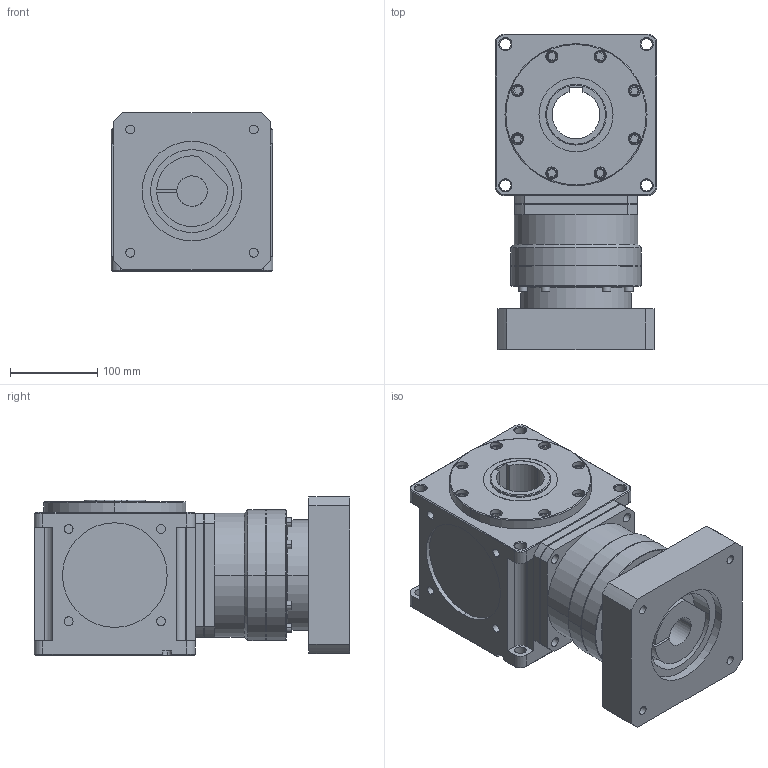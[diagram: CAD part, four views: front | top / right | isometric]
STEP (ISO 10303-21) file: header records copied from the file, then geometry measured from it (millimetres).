
FILE_DESCRIPTION (( 'STEP AP214' ), '1' );
FILE_NAME ('CCW185A-L1(6-20)-CR 35-114.3-200-M12.STEP', '2025-05-26T05:26:50', ( '微软用户' ), ( '微软中国' ), 'SwSTEP 2.0', 'SolidWorks 2024', '' );
FILE_SCHEMA (( 'AUTOMOTIVE_DESIGN' ));
Length unit declared in the file: millimetre
Products named in the file (3): CCW185A-L1(6-20)-CR 35-114.3-200-M12; CCW185A-002-CR箱体; VRB-142-L1-S2-P1 35-114.3-200-M12
Assembly tree (2 placements, depth 2):
  CCW185A-L1(6-20)-CR 35-114.3-200-M12
    VRB-142-L1-S2-P1 35-114.3-200-M12
    CCW185A-002-CR箱体
Bounding box: 185 x 362 x 182 mm (x, y, z)
Volume: 8535881.6 mm3; surface area: 471244.2 mm2
Topology: 2 solids, 2 shells, 524 faces, 1241 edges, 785 vertices
Faces by surface type: plane 262, cylinder 178, cone 56, torus 28
Entity records: 15368 total; most frequent: DIRECTION 2790, CARTESIAN_POINT 2736, ORIENTED_EDGE 2478, EDGE_CURVE 1239, AXIS2_PLACEMENT_3D 1049, VERTEX_POINT 785, LINE 692, VECTOR 692
